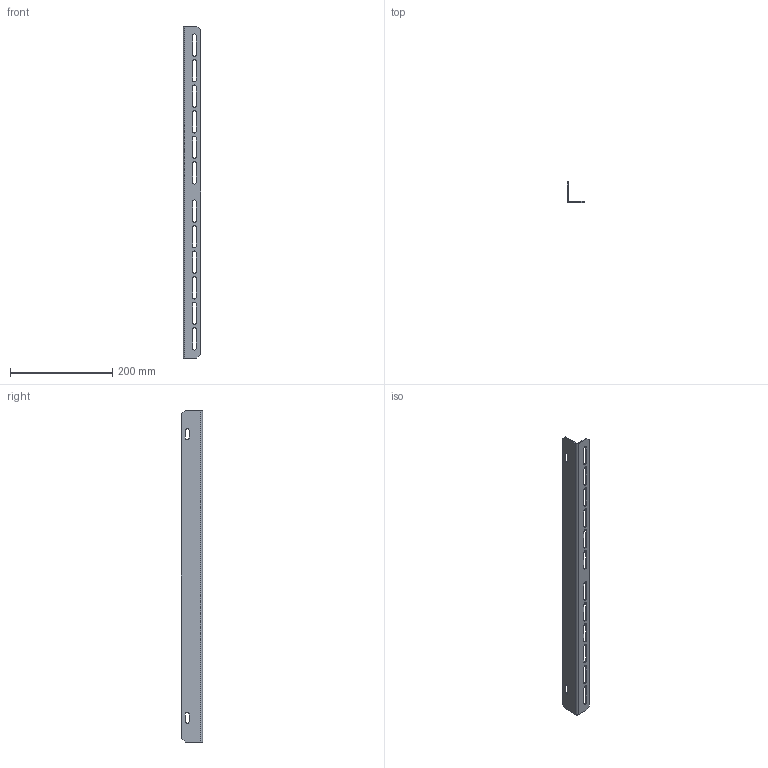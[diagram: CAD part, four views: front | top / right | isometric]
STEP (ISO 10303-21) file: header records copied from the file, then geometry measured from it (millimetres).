
FILE_DESCRIPTION (( 'STEP AP203' ), '1' );
FILE_NAME ('MG 65.03 IL Ðåéêà îïîðíàÿ.STEP', '2017-11-19T07:00:07', ( 'user' ), ( '' ), 'SwSTEP 2.0', 'SolidWorks 2012', '' );
FILE_SCHEMA (( 'CONFIG_CONTROL_DESIGN' ));
Length unit declared in the file: millimetre
Products named in the file (1): MG 65.03 IL Ðåéêà îïîðíàÿ
Bounding box: 35 x 41.5 x 650 mm (x, y, z)
Volume: 87498.2 mm3; surface area: 92867.1 mm2
Topology: 1 solids, 1 shells, 74 faces, 208 edges, 136 vertices
Faces by surface type: plane 44, cylinder 30
Entity records: 2521 total; most frequent: CARTESIAN_POINT 419, DIRECTION 418, ORIENTED_EDGE 416, EDGE_CURVE 208, VECTOR 148, LINE 148, VERTEX_POINT 136, AXIS2_PLACEMENT_3D 135
